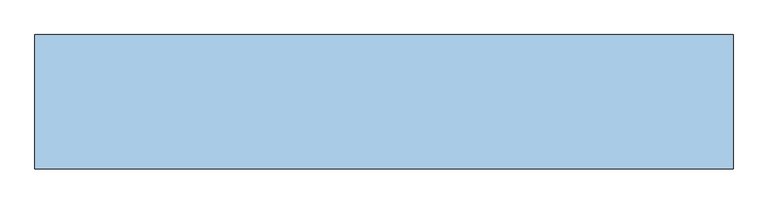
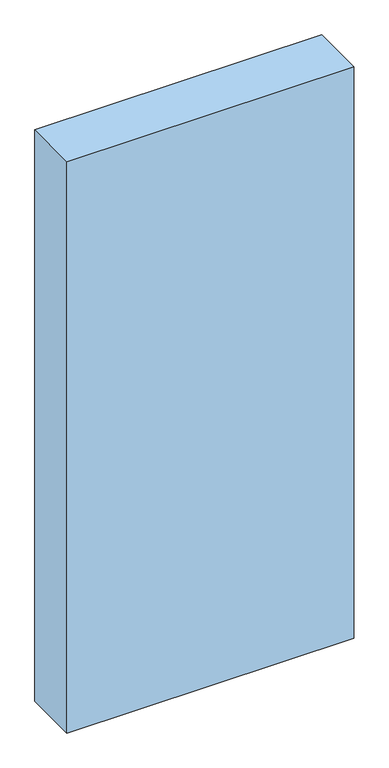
"""IFC4 building model written with IfcOpenShell, lengths in millimetres: window geometry, Dr_Проем-Четверти_об модель : ОК."""

from ifc_helpers import new_model, si_unit, frame, origin, place, context, project, spatial, polyline, outline, extrude, source, transform, mapped, element, save


def window_218844e8(model_context):
    return source(origin(), model_context, "Body", "SweptSolid", [
        extrude(outline(polyline([(655.0, 100.0), (655.0, -100.0), (-385.0, -100.0), (-385.0, 100.0), (655.0, 100.0)])), frame((0.0, 0.0, -70.0), z_axis=(0.0, 0.0, 1.0), x_axis=(1.0, 0.0, 0.0)), (0.0, 0.0, 1.0), 2190.0),
    ])


if __name__ == "__main__":
    model = new_model("IFC4")
    model_context = context("Model", 3, world=origin())
    ifc_project = project(units=[si_unit("LENGTHUNIT", "METRE", prefix="MILLI")], contexts=[model_context])
    site = spatial("IfcSite", under=ifc_project)
    building = spatial("IfcBuilding", under=site)
    placement = place(None, origin())
    window_shape = window_218844e8(model_context)
    element("IfcWindow", 1, ObjectType="Dr_Проем-Четверти_об модель : ОК", at=placement, inside=building, context=model_context, shape_type="MappedRepresentation", body=[
        mapped(window_shape, transform((0.0, 0.0, 0.0), x_axis=(1.0, 0.0, 0.0), y_axis=(0.0, 1.0, 0.0), z_axis=(0.0, 0.0, 1.0))),
    ])
    save(model, "model.ifc")
